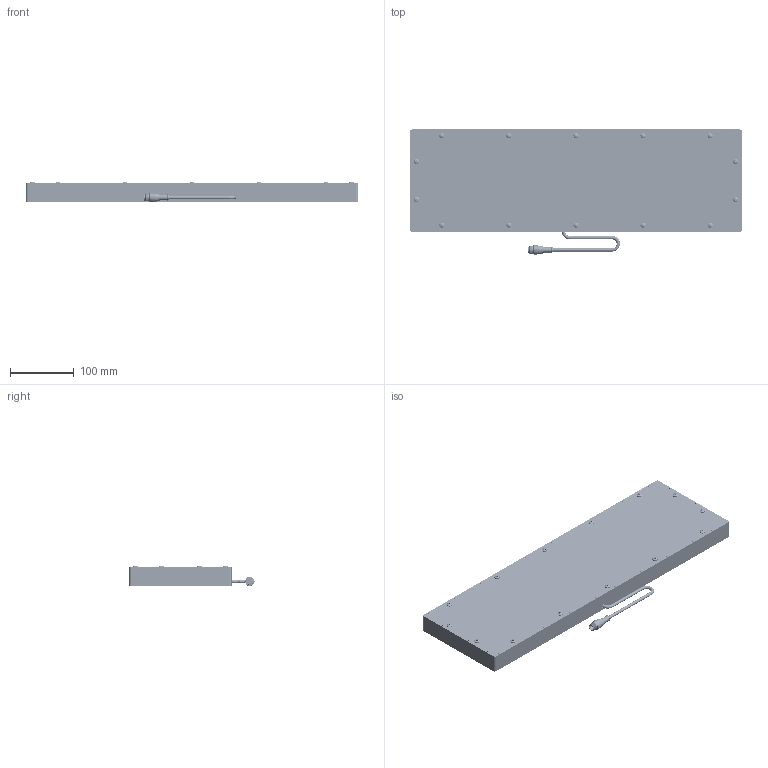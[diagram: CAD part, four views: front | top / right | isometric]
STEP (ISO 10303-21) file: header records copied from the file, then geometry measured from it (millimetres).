
FILE_DESCRIPTION (( 'STEP AP214' ), '1' );
FILE_NAME ('BL120480.STEP', '2026-06-17T02:01:49', ( '' ), ( '' ), 'SwSTEP 2.0', 'SolidWorks 2025', '' );
FILE_SCHEMA (( 'AUTOMOTIVE_DESIGN' ));
Length unit declared in the file: millimetre
Products named in the file (12): BL120480; 8-32 x .375 Nylon Screw_.375" 94611A192; MC Pigtail 24_90 then 180 short lead out; 8-32 x 0.5 FHCS (92210A194)_92210A194; 120 to 480 x 25mm rails_480mm; WD-Xmm x Xmm_120x480; SC Pigtail Complete 18_5pin; Backplate Xmm x Xmm_120x480; M12 Connector 4,5 and 8 pin_RS4.5T; 120 to 480 x 25mm rails_120mm no CG; Hex Standoff .75 x 8-32; 120 to 480 x 25mm rails_480mm no CG
Assembly tree (51 placements, depth 3):
  BL120480
    Backplate Xmm x Xmm_120x480
    120 to 480 x 25mm rails_480mm
    120 to 480 x 25mm rails_120mm no CG  x2
    120 to 480 x 25mm rails_480mm no CG
    WD-Xmm x Xmm_120x480
    SC Pigtail Complete 18_5pin
      MC Pigtail 24_90 then 180 short lead out
      M12 Connector 4,5 and 8 pin_RS4.5T
    Hex Standoff .75 x 8-32  x14
    8-32 x 0.5 FHCS (92210A194)_92210A194  x14
    8-32 x .375 Nylon Screw_.375" 94611A192  x14
Bounding box: 520 x 195.91 x 31.93 mm (x, y, z)
Volume: 1100046.8 mm3; surface area: 491125.5 mm2
Topology: 50 solids, 50 shells, 1456 faces, 3557 edges, 2259 vertices
Faces by surface type: plane 556, bspline 364, cylinder 247, cone 243, torus 27, sphere 19
Full cylindrical faces by diameter (mm): 0.762 x5, 1 x1, 3.454 x14, 4.2 x4, 4.496 x42, 5.207 x3, 6.35 x4, 6.858 x14, 8.128 x14, 8.382 x1, 8.636 x1, 9.119 x14, 10.16 x1, 10.541 x1, 11.938 x1, 13.716 x2, 14.732 x1
Entity records: 14906 total; most frequent: CARTESIAN_POINT 5582, DIRECTION 1727, ORIENTED_EDGE 1412, AXIS2_PLACEMENT_3D 721, EDGE_CURVE 706, EDGE_LOOP 607, VERTEX_POINT 531, FACE_OUTER_BOUND 445
